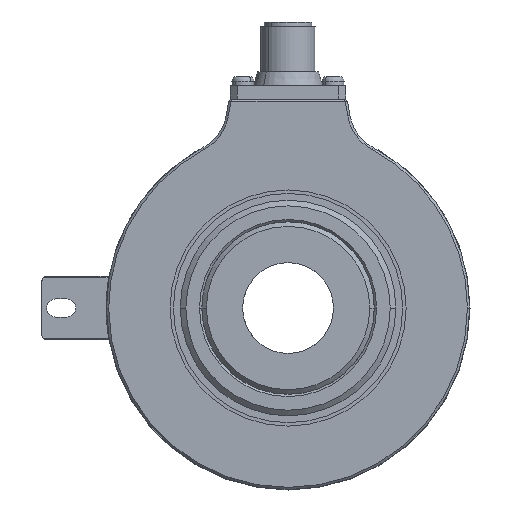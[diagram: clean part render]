
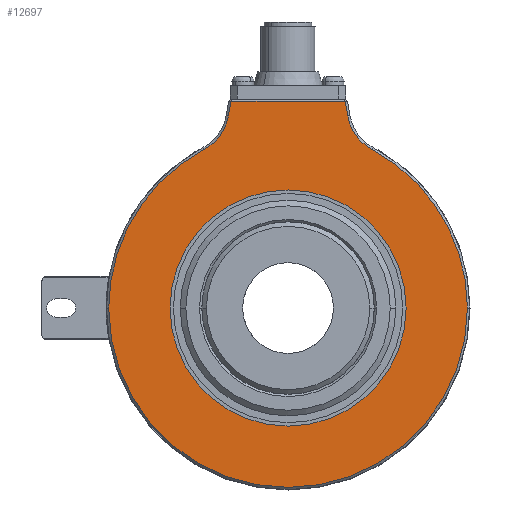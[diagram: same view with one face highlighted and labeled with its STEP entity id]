
A CAD part, left-side view. The second image highlights one B-rep face of the part: STEP entity #12697.
In plain terms, the highlighted planar face has unit normal (-1, 0, 0).
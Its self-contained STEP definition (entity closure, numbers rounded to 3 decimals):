
#72 = EDGE_CURVE ( 'NONE', #16624, #16499, #7447, .T. ) ;
#356 = CARTESIAN_POINT ( 'NONE',  ( -26., -18.776, 10.364 ) ) ;
#493 = ORIENTED_EDGE ( 'NONE', *, *, #724, .T. ) ;
#687 = DIRECTION ( 'NONE',  ( 0., 1., 0. ) ) ;
#724 = EDGE_CURVE ( 'NONE', #12801, #16624, #10803, .T. ) ;
#800 = CARTESIAN_POINT ( 'NONE',  ( -26., 0., 0. ) ) ;
#936 = DIRECTION ( 'NONE',  ( 0., 0.174, -0.985 ) ) ;
#939 = VECTOR ( 'NONE', #15177, 1000. ) ;
#1098 = EDGE_LOOP ( 'NONE', ( #22035, #6572 ) ) ;
#1326 = CIRCLE ( 'NONE', #2460, 10.5 ) ;
#1725 = CARTESIAN_POINT ( 'NONE',  ( -26., -13.141, 42.32 ) ) ;
#1756 = AXIS2_PLACEMENT_3D ( 'NONE', #17105, #3209, #15323 ) ;
#2460 = AXIS2_PLACEMENT_3D ( 'NONE', #12545, #19789, #3274 ) ;
#2632 = VERTEX_POINT ( 'NONE', #1725 ) ;
#2717 = DIRECTION ( 'NONE',  ( 0., 0.174, 0.985 ) ) ;
#2975 = CARTESIAN_POINT ( 'NONE',  ( -26., 0., 0. ) ) ;
#3209 = DIRECTION ( 'NONE',  ( 1., 0., 0. ) ) ;
#3274 = DIRECTION ( 'NONE',  ( 0., -1., 0. ) ) ;
#3771 = FACE_OUTER_BOUND ( 'NONE', #13888, .T. ) ;
#4383 = CARTESIAN_POINT ( 'NONE',  ( -26., 13.141, 42.32 ) ) ;
#4415 = DIRECTION ( 'NONE',  ( -1., 0., 0. ) ) ;
#4490 = CARTESIAN_POINT ( 'NONE',  ( -26., 0., 0. ) ) ;
#4869 = DIRECTION ( 'NONE',  ( -1., 0., 0. ) ) ;
#4953 = CARTESIAN_POINT ( 'NONE',  ( -26., 21.188, -3.317 ) ) ;
#5601 = CARTESIAN_POINT ( 'NONE',  ( -26., -26., 0. ) ) ;
#6016 = EDGE_CURVE ( 'NONE', #8907, #18015, #8516, .T. ) ;
#6022 = EDGE_CURVE ( 'NONE', #2632, #13530, #13062, .T. ) ;
#6380 = AXIS2_PLACEMENT_3D ( 'NONE', #16706, #11147, #9239 ) ;
#6510 = VERTEX_POINT ( 'NONE', #11931 ) ;
#6572 = ORIENTED_EDGE ( 'NONE', *, *, #6016, .T. ) ;
#6692 = ORIENTED_EDGE ( 'NONE', *, *, #10094, .T. ) ;
#6729 = CARTESIAN_POINT ( 'NONE',  ( -26., -39.5, 0. ) ) ;
#7447 = CIRCLE ( 'NONE', #17326, 39.5 ) ;
#7448 = FACE_BOUND ( 'NONE', #1098, .T. ) ;
#7474 = DIRECTION ( 'NONE',  ( 1., 0., 0. ) ) ;
#7580 = CARTESIAN_POINT ( 'NONE',  ( -26., -18.551, 34.873 ) ) ;
#7951 = EDGE_CURVE ( 'NONE', #13530, #18759, #22800, .T. ) ;
#8068 = CARTESIAN_POINT ( 'NONE',  ( -26., 0., 0. ) ) ;
#8438 = EDGE_CURVE ( 'NONE', #17377, #6510, #1326, .T. ) ;
#8516 = CIRCLE ( 'NONE', #12298, 26. ) ;
#8907 = VERTEX_POINT ( 'NONE', #5601 ) ;
#9239 = DIRECTION ( 'NONE',  ( 0., -1., 0. ) ) ;
#9766 = CIRCLE ( 'NONE', #14672, 26. ) ;
#9859 = DIRECTION ( 'NONE',  ( -1., 0., 0. ) ) ;
#10076 = LINE ( 'NONE', #4953, #19207 ) ;
#10094 = EDGE_CURVE ( 'NONE', #18759, #17377, #10076, .T. ) ;
#10803 = CIRCLE ( 'NONE', #16133, 39.5 ) ;
#10993 = ORIENTED_EDGE ( 'NONE', *, *, #8438, .T. ) ;
#11033 = PLANE ( 'NONE',  #6380 ) ;
#11046 = EDGE_CURVE ( 'NONE', #18015, #8907, #9766, .T. ) ;
#11147 = DIRECTION ( 'NONE',  ( -1., 0., 0. ) ) ;
#11476 = CARTESIAN_POINT ( 'NONE',  ( -26., -12.58, 45.5 ) ) ;
#11485 = CARTESIAN_POINT ( 'NONE',  ( -26., 26., 0. ) ) ;
#11752 = DIRECTION ( 'NONE',  ( 1., 0., 0. ) ) ;
#11846 = CARTESIAN_POINT ( 'NONE',  ( -26., 39.5, 0. ) ) ;
#11931 = CARTESIAN_POINT ( 'NONE',  ( -26., 18.551, 34.873 ) ) ;
#12132 = DIRECTION ( 'NONE',  ( 0., -1., 0. ) ) ;
#12298 = AXIS2_PLACEMENT_3D ( 'NONE', #4490, #11752, #14945 ) ;
#12510 = ORIENTED_EDGE ( 'NONE', *, *, #20697, .T. ) ;
#12545 = CARTESIAN_POINT ( 'NONE',  ( -26., 23.482, 44.143 ) ) ;
#12697 = ADVANCED_FACE ( 'NONE', ( #3771, #7448 ), #11033, .T. ) ;
#12801 = VERTEX_POINT ( 'NONE', #11846 ) ;
#13062 = LINE ( 'NONE', #356, #21795 ) ;
#13342 = ORIENTED_EDGE ( 'NONE', *, *, #7951, .T. ) ;
#13530 = VERTEX_POINT ( 'NONE', #11476 ) ;
#13693 = ORIENTED_EDGE ( 'NONE', *, *, #21718, .T. ) ;
#13888 = EDGE_LOOP ( 'NONE', ( #22005, #13342, #6692, #10993, #12510, #493, #16464, #13693 ) ) ;
#14672 = AXIS2_PLACEMENT_3D ( 'NONE', #800, #7474, #687 ) ;
#14945 = DIRECTION ( 'NONE',  ( 0., 1., 0. ) ) ;
#15177 = DIRECTION ( 'NONE',  ( 0., 1., 0. ) ) ;
#15323 = DIRECTION ( 'NONE',  ( 0., -1., 0. ) ) ;
#15767 = CARTESIAN_POINT ( 'NONE',  ( -26., 12.58, 45.5 ) ) ;
#16133 = AXIS2_PLACEMENT_3D ( 'NONE', #8068, #9859, #22922 ) ;
#16464 = ORIENTED_EDGE ( 'NONE', *, *, #72, .T. ) ;
#16499 = VERTEX_POINT ( 'NONE', #7580 ) ;
#16624 = VERTEX_POINT ( 'NONE', #6729 ) ;
#16706 = CARTESIAN_POINT ( 'NONE',  ( -26., 40., 0. ) ) ;
#17105 = CARTESIAN_POINT ( 'NONE',  ( -26., -23.482, 44.143 ) ) ;
#17189 = CARTESIAN_POINT ( 'NONE',  ( -26., 40., 45.5 ) ) ;
#17326 = AXIS2_PLACEMENT_3D ( 'NONE', #2975, #4869, #12132 ) ;
#17377 = VERTEX_POINT ( 'NONE', #4383 ) ;
#18015 = VERTEX_POINT ( 'NONE', #11485 ) ;
#18022 = AXIS2_PLACEMENT_3D ( 'NONE', #20714, #4415, #18572 ) ;
#18572 = DIRECTION ( 'NONE',  ( 0., -1., 0. ) ) ;
#18759 = VERTEX_POINT ( 'NONE', #15767 ) ;
#19207 = VECTOR ( 'NONE', #936, 1000. ) ;
#19789 = DIRECTION ( 'NONE',  ( 1., 0., 0. ) ) ;
#20697 = EDGE_CURVE ( 'NONE', #6510, #12801, #21829, .T. ) ;
#20714 = CARTESIAN_POINT ( 'NONE',  ( -26., 0., 0. ) ) ;
#21718 = EDGE_CURVE ( 'NONE', #16499, #2632, #22631, .T. ) ;
#21795 = VECTOR ( 'NONE', #2717, 1000. ) ;
#21829 = CIRCLE ( 'NONE', #18022, 39.5 ) ;
#22005 = ORIENTED_EDGE ( 'NONE', *, *, #6022, .T. ) ;
#22035 = ORIENTED_EDGE ( 'NONE', *, *, #11046, .T. ) ;
#22631 = CIRCLE ( 'NONE', #1756, 10.5 ) ;
#22800 = LINE ( 'NONE', #17189, #939 ) ;
#22922 = DIRECTION ( 'NONE',  ( 0., -1., 0. ) ) ;
